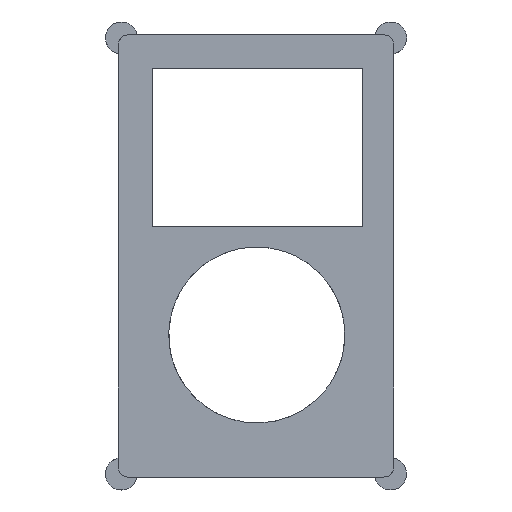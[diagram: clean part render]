
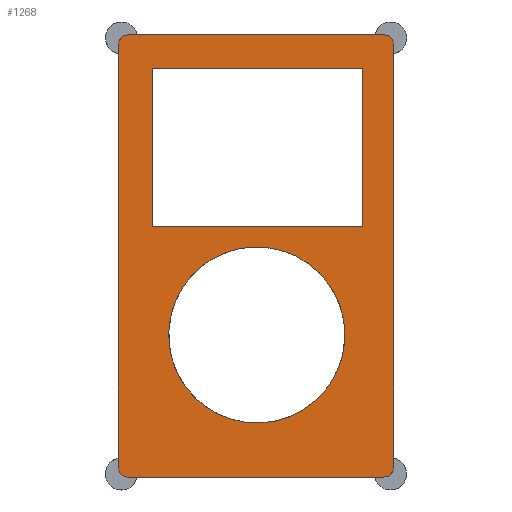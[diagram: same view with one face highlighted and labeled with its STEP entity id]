
A CAD part, top view. The second image highlights one B-rep face of the part: STEP entity #1268.
In plain terms, the highlighted planar face has unit normal (0, 0, 1).
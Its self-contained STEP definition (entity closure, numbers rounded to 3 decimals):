
#11=DIRECTION('',(0.0,0.0,1.0));
#12=DIRECTION('',(1.0,0.0,0.0));
#24=DIRECTION('',(-1.0,0.0,0.0));
#228=DIRECTION('',(0.0,1.0,0.0));
#895=VECTOR('',#24,52.6);
#903=VECTOR('',#228,39.5);
#909=VECTOR('',#12,52.6);
#915=DIRECTION('',(0.0,-1.0,0.0));
#916=VECTOR('',#915,39.5);
#1154=CARTESIAN_POINT('',(65.3,107.,16.7));
#1155=AXIS2_PLACEMENT_3D('',#1154,#11,#24);
#1156=PLANE('',#1155);
#1157=CARTESIAN_POINT('',(49.093,44.659,16.7));
#1158=CARTESIAN_POINT('',(53.313,38.661,16.7));
#1159=CARTESIAN_POINT('',(52.755,20.336,16.7));
#1160=CARTESIAN_POINT('',(34.762,7.677,16.7));
#1161=CARTESIAN_POINT('',(17.327,13.343,16.7));
#1162=CARTESIAN_POINT('',(13.107,19.341,16.7));
#1163=(BOUNDED_CURVE()B_SPLINE_CURVE(2,(#1162,#1161,#1160,#1159,#1158,#1157),.UNSPECIFIED.,.U.,.U.)B_SPLINE_CURVE_WITH_KNOTS((3,1,1,1,3),(0.0,0.25,0.5,0.75,1.0),.UNSPECIFIED.)CURVE()GEOMETRIC_REPRESENTATION_ITEM()RATIONAL_B_SPLINE_CURVE((1.0,0.75,0.5,0.5,0.75,1.0))REPRESENTATION_ITEM(''));
#1164=CARTESIAN_POINT('',(49.093,44.659,16.7));
#1165=VERTEX_POINT('',#1164);
#1166=VERTEX_POINT('',#1162);
#1167=EDGE_CURVE('',#1166,#1165,#1163,.T.);
#1168=ORIENTED_EDGE('',*,*,#1167,.F.);
#1169=CARTESIAN_POINT('',(13.107,19.341,16.7));
#1170=CARTESIAN_POINT('',(8.887,25.339,16.7));
#1171=CARTESIAN_POINT('',(9.445,43.664,16.7));
#1172=CARTESIAN_POINT('',(27.438,56.323,16.7));
#1173=CARTESIAN_POINT('',(44.873,50.657,16.7));
#1174=(BOUNDED_CURVE()B_SPLINE_CURVE(2,(#1164,#1173,#1172,#1171,#1170,#1169),.UNSPECIFIED.,.U.,.U.)B_SPLINE_CURVE_WITH_KNOTS((3,1,1,1,3),(0.0,0.25,0.5,0.75,1.0),.UNSPECIFIED.)CURVE()GEOMETRIC_REPRESENTATION_ITEM()RATIONAL_B_SPLINE_CURVE((1.0,0.75,0.5,0.5,0.75,1.0))REPRESENTATION_ITEM(''));
#1175=EDGE_CURVE('',#1165,#1166,#1174,.T.);
#1176=ORIENTED_EDGE('',*,*,#1175,.F.);
#1177=EDGE_LOOP('',(#1176,#1168));
#1178=FACE_BOUND('',#1177,.T.);
#1179=CARTESIAN_POINT('',(57.6,59.1,16.7));
#1180=LINE('',#1179,#903);
#1181=CARTESIAN_POINT('',(57.6,98.6,16.7));
#1182=VERTEX_POINT('',#1181);
#1183=VERTEX_POINT('',#1179);
#1184=EDGE_CURVE('',#1183,#1182,#1180,.T.);
#1185=ORIENTED_EDGE('',*,*,#1184,.F.);
#1186=LINE('',#1181,#895);
#1187=CARTESIAN_POINT('',(5.0,98.6,16.7));
#1188=VERTEX_POINT('',#1187);
#1189=EDGE_CURVE('',#1182,#1188,#1186,.T.);
#1190=ORIENTED_EDGE('',*,*,#1189,.F.);
#1191=LINE('',#1187,#916);
#1192=CARTESIAN_POINT('',(5.0,59.1,16.7));
#1193=VERTEX_POINT('',#1192);
#1194=EDGE_CURVE('',#1188,#1193,#1191,.T.);
#1195=ORIENTED_EDGE('',*,*,#1194,.F.);
#1196=LINE('',#1192,#909);
#1197=EDGE_CURVE('',#1193,#1183,#1196,.T.);
#1198=ORIENTED_EDGE('',*,*,#1197,.F.);
#1199=EDGE_LOOP('',(#1198,#1195,#1190,#1185));
#1200=FACE_BOUND('',#1199,.T.);
#1201=CARTESIAN_POINT('',(65.3,104.5,16.7));
#1202=CARTESIAN_POINT('',(65.3,104.977,16.7));
#1203=CARTESIAN_POINT('',(64.934,105.902,16.7));
#1204=CARTESIAN_POINT('',(64.202,106.634,16.7));
#1205=CARTESIAN_POINT('',(63.277,107.,16.7));
#1206=CARTESIAN_POINT('',(62.8,107.0,16.7));
#1207=(BOUNDED_CURVE()B_SPLINE_CURVE(2,(#1206,#1205,#1204,#1203,#1202,#1201),.UNSPECIFIED.,.U.,.U.)B_SPLINE_CURVE_WITH_KNOTS((3,1,1,1,3),(0.0,0.25,0.5,0.75,1.0),.UNSPECIFIED.)CURVE()GEOMETRIC_REPRESENTATION_ITEM()RATIONAL_B_SPLINE_CURVE((1.0,0.927,0.854,0.854,0.927,1.0))REPRESENTATION_ITEM(''));
#1208=VERTEX_POINT('',#1201);
#1209=VERTEX_POINT('',#1206);
#1210=EDGE_CURVE('',#1209,#1208,#1207,.T.);
#1211=ORIENTED_EDGE('',*,*,#1210,.F.);
#1212=DIRECTION('',(0.,-1.0,0.0));
#1213=VECTOR('',#1212,105.5);
#1214=LINE('',#1201,#1213);
#1215=CARTESIAN_POINT('',(65.3,-1.,16.7));
#1216=VERTEX_POINT('',#1215);
#1217=EDGE_CURVE('',#1208,#1216,#1214,.T.);
#1218=ORIENTED_EDGE('',*,*,#1217,.F.);
#1219=CARTESIAN_POINT('',(62.8,-3.5,16.7));
#1220=CARTESIAN_POINT('',(63.277,-3.5,16.7));
#1221=CARTESIAN_POINT('',(64.202,-3.134,16.7));
#1222=CARTESIAN_POINT('',(64.934,-2.402,16.7));
#1223=CARTESIAN_POINT('',(65.3,-1.477,16.7));
#1224=(BOUNDED_CURVE()B_SPLINE_CURVE(2,(#1215,#1223,#1222,#1221,#1220,#1219),.UNSPECIFIED.,.U.,.U.)B_SPLINE_CURVE_WITH_KNOTS((3,1,1,1,3),(0.0,0.25,0.5,0.75,1.0),.UNSPECIFIED.)CURVE()GEOMETRIC_REPRESENTATION_ITEM()RATIONAL_B_SPLINE_CURVE((1.0,0.927,0.854,0.854,0.927,1.0))REPRESENTATION_ITEM(''));
#1225=VERTEX_POINT('',#1219);
#1226=EDGE_CURVE('',#1216,#1225,#1224,.T.);
#1227=ORIENTED_EDGE('',*,*,#1226,.F.);
#1228=DIRECTION('',(-1.0,0.,0.0));
#1229=VECTOR('',#1228,63.8);
#1230=LINE('',#1219,#1229);
#1231=CARTESIAN_POINT('',(-1.,-3.5,16.7));
#1232=VERTEX_POINT('',#1231);
#1233=EDGE_CURVE('',#1225,#1232,#1230,.T.);
#1234=ORIENTED_EDGE('',*,*,#1233,.F.);
#1235=CARTESIAN_POINT('',(-3.5,-1.,16.7));
#1236=CARTESIAN_POINT('',(-3.5,-1.477,16.7));
#1237=CARTESIAN_POINT('',(-3.134,-2.402,16.7));
#1238=CARTESIAN_POINT('',(-2.402,-3.134,16.7));
#1239=CARTESIAN_POINT('',(-1.477,-3.5,16.7));
#1240=(BOUNDED_CURVE()B_SPLINE_CURVE(2,(#1231,#1239,#1238,#1237,#1236,#1235),.UNSPECIFIED.,.U.,.U.)B_SPLINE_CURVE_WITH_KNOTS((3,1,1,1,3),(0.0,0.25,0.5,0.75,1.0),.UNSPECIFIED.)CURVE()GEOMETRIC_REPRESENTATION_ITEM()RATIONAL_B_SPLINE_CURVE((1.0,0.927,0.854,0.854,0.927,1.0))REPRESENTATION_ITEM(''));
#1241=CARTESIAN_POINT('',(-3.5,-1.,16.7));
#1242=VERTEX_POINT('',#1241);
#1243=EDGE_CURVE('',#1232,#1242,#1240,.T.);
#1244=ORIENTED_EDGE('',*,*,#1243,.F.);
#1245=DIRECTION('',(0.,1.0,0.0));
#1246=VECTOR('',#1245,105.5);
#1247=LINE('',#1241,#1246);
#1248=CARTESIAN_POINT('',(-3.5,104.5,16.7));
#1249=VERTEX_POINT('',#1248);
#1250=EDGE_CURVE('',#1242,#1249,#1247,.T.);
#1251=ORIENTED_EDGE('',*,*,#1250,.F.);
#1252=CARTESIAN_POINT('',(-1.,107.0,16.7));
#1253=CARTESIAN_POINT('',(-1.477,107.,16.7));
#1254=CARTESIAN_POINT('',(-2.402,106.634,16.7));
#1255=CARTESIAN_POINT('',(-3.134,105.902,16.7));
#1256=CARTESIAN_POINT('',(-3.5,104.977,16.7));
#1257=(BOUNDED_CURVE()B_SPLINE_CURVE(2,(#1248,#1256,#1255,#1254,#1253,#1252),.UNSPECIFIED.,.U.,.U.)B_SPLINE_CURVE_WITH_KNOTS((3,1,1,1,3),(0.0,0.25,0.5,0.75,1.0),.UNSPECIFIED.)CURVE()GEOMETRIC_REPRESENTATION_ITEM()RATIONAL_B_SPLINE_CURVE((1.0,0.927,0.854,0.854,0.927,1.0))REPRESENTATION_ITEM(''));
#1258=CARTESIAN_POINT('',(-1.,107.0,16.7));
#1259=VERTEX_POINT('',#1258);
#1260=EDGE_CURVE('',#1249,#1259,#1257,.T.);
#1261=ORIENTED_EDGE('',*,*,#1260,.F.);
#1262=VECTOR('',#12,63.8);
#1263=LINE('',#1258,#1262);
#1264=EDGE_CURVE('',#1259,#1209,#1263,.T.);
#1265=ORIENTED_EDGE('',*,*,#1264,.F.);
#1266=EDGE_LOOP('',(#1265,#1261,#1251,#1244,#1234,#1227,#1218,#1211));
#1267=FACE_BOUND('',#1266,.T.);
#1268=ADVANCED_FACE('',(#1267,#1200,#1178),#1156,.T.);
